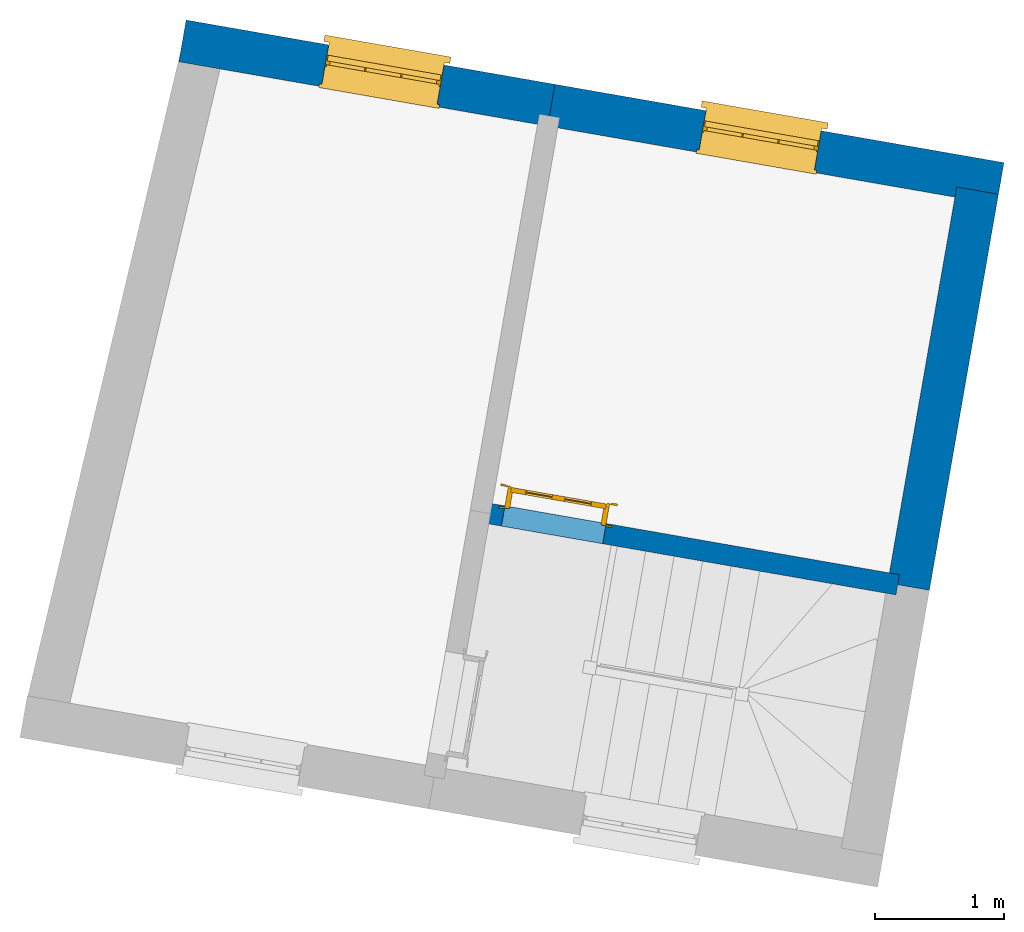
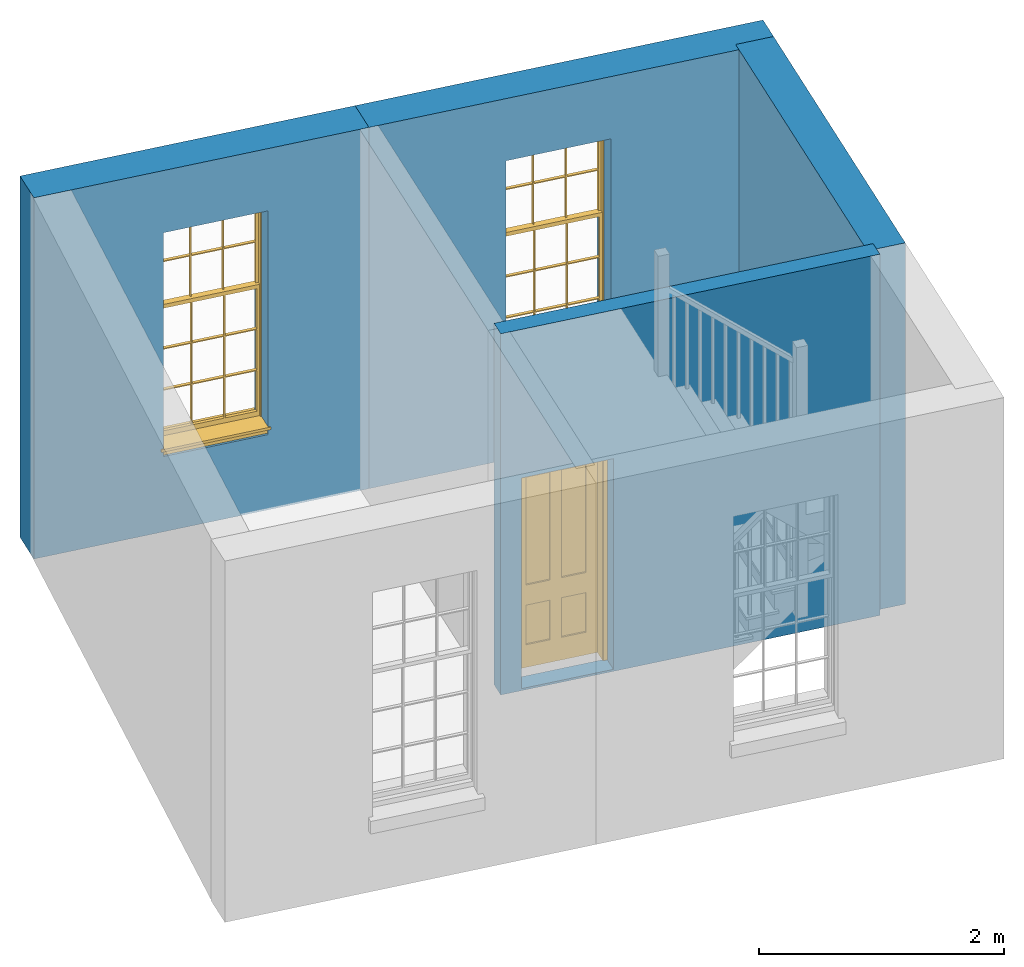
# One storey, part 2 of 2: 4 walls, 2 windows, 1 door, 3 openings.
"""IFC4 building model written with IfcOpenShell, lengths in metres."""

from ifc_helpers import new_model, si_unit, frame, origin, origin_with_axes, place, context, subcontext, project, spatial, polyline, outline, extrude, faceted_brep, source, transform, mapped, material, layer, layer_set, layer_usage, type_object, type_shapes, element, fill, save


model = new_model("IFC4")

# Units and contexts
model_context = context("Model", 3, world=origin_with_axes())
body_context = subcontext(model_context, "Body", "Model", "MODEL_VIEW")
ifc_project = project(units=[si_unit("PLANEANGLEUNIT", "RADIAN"), si_unit("MASSUNIT", "GRAM", prefix="KILO"), si_unit("FORCEUNIT", "NEWTON", prefix="KILO"), si_unit("LENGTHUNIT", "METRE"), si_unit("AREAUNIT", "SQUARE_METRE"), si_unit("VOLUMEUNIT", "CUBIC_METRE")], contexts=[model_context, model_context])

# Sites, building, storey
site_1_placement = place(None, origin_with_axes())
site_1 = spatial("IfcSite", under=ifc_project, at=site_1_placement, Name="Tamar")
site_2_placement = place(site_1_placement, origin_with_axes())
site_2 = spatial("IfcSite", under=site_1, at=site_2_placement, Name="Site plot-26", CompositionType="ELEMENT")
building_placement = place(None, origin_with_axes())
building = spatial("IfcBuilding", under=site_2, at=building_placement, Name="Building plot-26", CompositionType="ELEMENT")
storey_placement = place(None, frame((0.0, 0.0, 29.15), z_axis=(0.0, 0.0, 1.0), x_axis=(1.0, 0.0, 0.0)))
storey = spatial("IfcBuildingStorey", under=building, at=storey_placement, Name="plot-26 1", CompositionType="ELEMENT", Elevation=29.15)

# Wall, opening, window
ifc_material_1 = material(Name="Masonry")
ifc_layer_1 = layer(ifc_material_1, 0.33, ventilated=False)
ifc_layer_set_1 = layer_set([ifc_layer_1], Name="exterior_0.08_0.25")
ifc_layer_usage_1 = layer_usage(ifc_layer_set_1, "AXIS2", "POSITIVE", -0.25)
wall_type_1 = type_object("IfcWallType", Name="exterior_0.08_0.25", PredefinedType="SOLIDWALL", material=ifc_layer_set_1)
wall_1_placement = place(storey_placement, frame((291.598239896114, 275.42544442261, 0.0), z_axis=(0.0, 0.0, 1.0), x_axis=(-0.98513382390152, 0.171788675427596, 0.0)))
wall_1 = element("IfcWall", 1, at=wall_1_placement, inside=storey, type_object=wall_type_1, material=ifc_layer_usage_1, Name="exterior", context=body_context, shape_type="SweptSolid", body=[
    extrude(outline(polyline([(-0.25000000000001, 0.0800000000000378), (-0.250000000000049, -0.250000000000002), (3.29617851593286, -0.250000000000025), (3.2961785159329, 0.0800000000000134), (-0.25000000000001, 0.0800000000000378)])), origin_with_axes(), (0.0, 0.0, 1.0), 3.6),
])
opening_1_placement = place(wall_1_placement, frame((1.19308925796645, 0.0, 0.75)))
opening_1 = element("IfcOpeningElement", 2, at=opening_1_placement, cuts=wall_1, Name="My Opening", ObjectType="Opening", context=body_context, shape_type="SweptSolid", body=[
    extrude(outline(polyline([(0.0, -0.27000000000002), (0.91000000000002, -0.269999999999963), (0.910000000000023, 1.09999999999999), (2.44249065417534e-15, 1.09999999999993), (0.0, -0.27000000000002)])), origin_with_axes(), (0.0, 0.0, 1.0), 2.23),
])
window_type = type_object("IfcWindowType", Name="sash_big_taller", PartitioningType="DOUBLE_PANEL_HORIZONTAL", PredefinedType="NOTDEFINED")
shared_shape_1 = source(origin(), body_context, "Body", "Brep", [
    faceted_brep([(0.033125, 0.145, 1.385209), (0.01, 0.145, 1.385209), (0.033125, 0.145, 1.786042), (0.876875, 0.145, 1.385209), (0.876875, 0.145, 1.786042), (0.9, 0.145, 1.385209), (0.876875, 0.145, 1.796042), (0.876875, 0.145, 2.196875), (0.9, 0.145, 2.22), (0.033125, 0.145, 2.196875), (0.033125, 0.145, 1.796042), (0.01, 0.145, 2.22), (0.876875, 0.115, 1.786042), (0.876875, 0.115, 1.385209), (0.9, 0.115, 1.347084), (0.033125, 0.115, 2.196875), (0.01, 0.115, 2.22), (0.033125, 0.115, 1.796042), (0.01, 0.115, 1.347084), (0.033125, 0.115, 1.385209), (0.033125, 0.115, 1.786042), (0.876875, 0.115, 2.196875), (0.876875, 0.115, 1.796042), (0.9, 0.115, 2.22), (0.033125, 0.145, 1.347084), (0.01, 0.145, 1.347084), (0.033125, 0.145, 0.94625), (0.876875, 0.145, 1.347084), (0.876875, 0.145, 0.94625), (0.9, 0.145, 1.347084), (0.876875, 0.145, 0.52625), (0.876875, 0.145, 0.125417), (0.9, 0.145, 0.077167), (0.033125, 0.145, 0.125417), (0.033125, 0.145, 0.52625), (0.01, 0.145, 0.077167), (-0.0425, 0.0, 0.01), (-0.0425, -0.05, 0.001667), (0.0, 0.0, 0.01), (0.9525, 0.0, 0.01), (0.91, 0.0, 0.01), (0.9525, -0.05, 0.001667), (-0.02, 0.33, 0.077167), (0.0, 0.33, 0.077167), (-0.02, 0.36, 0.077167), (0.0, 0.19, 0.077167), (0.01, 0.19, 0.077167), (0.91, 0.19, 0.077167), (0.91, 0.33, 0.077167), (0.9, 0.19, 0.077167), (0.93, 0.33, 0.077167), (0.93, 0.36, 0.077167), (0.01, 0.175, 1.385209), (0.9, 0.175, 1.385209), (0.876875, 0.175, 0.125417), (0.876875, 0.175, 0.52625), (0.9, 0.175, 0.077167), (0.876875, 0.175, 0.94625), (0.876875, 0.175, 1.347084), (0.033125, 0.175, 0.125417), (0.01, 0.175, 0.077167), (0.033125, 0.175, 0.52625), (0.033125, 0.175, 1.347084), (0.033125, 0.175, 0.94625), (-0.02, 0.33, 0.052167), (-0.02, 0.36, 0.052167), (0.93, 0.36, 0.052167), (0.93, 0.33, 0.052167), (0.91, 0.33, 0.052167), (0.0, 0.33, 0.052167), (0.91, 0.1, 0.026667), (0.0, 0.1, 0.026667), (-0.0425, -0.05, -0.123333), (0.9525, -0.05, -0.123333), (-0.0425, 0.0, -0.123333), (0.9525, 0.0, -0.123333), (0.01, 0.19, 2.22), (0.9, 0.19, 2.22), (0.0, 0.19, 2.23), (0.91, 0.19, 2.23), (0.01, 0.1, 0.077167), (0.9, 0.1, 0.077167), (0.592292, 0.145, 0.125417), (0.592292, 0.175, 0.125417), (0.317708, 0.175, 0.125417), (0.317708, 0.145, 0.125417), (0.592292, 0.145, 0.53625), (0.317708, 0.145, 0.53625), (0.317708, 0.145, 0.52625), (0.592292, 0.145, 0.52625), (0.592292, 0.175, 0.53625), (0.317708, 0.175, 0.53625), (0.592292, 0.115, 1.796042), (0.592292, 0.145, 1.796042), (0.317708, 0.145, 1.796042), (0.317708, 0.115, 1.796042), (0.317708, 0.115, 1.786042), (0.592292, 0.115, 1.786042), (0.317708, 0.145, 1.786042), (0.592292, 0.145, 1.786042), (0.602292, 0.115, 1.786042), (0.592292, 0.115, 1.385209), (0.602292, 0.115, 1.385209), (0.602292, 0.145, 1.385209), (0.592292, 0.145, 1.385209), (0.602292, 0.145, 1.786042), (0.876875, 0.145, 0.53625), (0.876875, 0.175, 0.53625), (0.602292, 0.175, 0.53625), (0.602292, 0.145, 0.53625), (0.317708, 0.175, 0.52625), (0.307708, 0.175, 0.125417), (0.307708, 0.175, 0.52625), (0.602292, 0.175, 0.52625), (0.602292, 0.175, 0.125417), (0.592292, 0.175, 0.52625), (0.307708, 0.175, 0.53625), (0.033125, 0.175, 0.53625), (0.317708, 0.175, 1.347084), (0.317708, 0.175, 0.94625), (0.307708, 0.175, 0.94625), (0.307708, 0.175, 1.347084), (0.602292, 0.175, 1.347084), (0.602292, 0.175, 0.94625), (0.592292, 0.175, 0.94625), (0.592292, 0.175, 1.347084), (0.307708, 0.145, 0.52625), (0.307708, 0.145, 0.125417), (0.307708, 0.145, 0.53625), (0.033125, 0.145, 0.53625), (0.307708, 0.145, 1.347084), (0.307708, 0.145, 0.94625), (0.592292, 0.145, 1.347084), (0.592292, 0.145, 0.94625), (0.317708, 0.145, 0.94625), (0.317708, 0.145, 1.347084), (0.602292, 0.145, 0.94625), (0.602292, 0.145, 1.347084), (0.602292, 0.145, 0.52625), (0.602292, 0.145, 0.125417), (0.307708, 0.115, 1.796042), (0.307708, 0.115, 1.786042), (0.307708, 0.115, 1.385209), (0.317708, 0.115, 1.385209), (0.317708, 0.115, 2.196875), (0.307708, 0.115, 2.196875), (0.602292, 0.115, 2.196875), (0.592292, 0.115, 2.196875), (0.602292, 0.115, 1.796042), (0.602292, 0.145, 1.796042), (0.307708, 0.145, 1.796042), (0.307708, 0.145, 2.196875), (0.317708, 0.145, 2.196875), (0.592292, 0.145, 2.196875), (0.602292, 0.145, 2.196875), (0.307708, 0.145, 1.786042), (0.317708, 0.145, 1.385209), (0.307708, 0.145, 1.385209), (0.876875, 0.175, 0.93625), (0.033125, 0.175, 0.93625), (0.033125, 0.145, 0.93625), (0.876875, 0.145, 0.93625), (0.91, 0.1, 2.23), (0.9, 0.1, 2.22), (0.01, 0.1, 2.22), (0.0, 0.1, 2.23), (0.91, 0.0, 0.0), (0.0, 0.0, 0.0), (0.91, 0.33, 0.0), (0.0, 0.33, 0.0), (0.317708, 0.145, 0.93625), (0.592292, 0.145, 0.93625), (0.317708, 0.175, 0.93625), (0.307708, 0.175, 0.93625), (0.602292, 0.175, 0.93625), (0.592292, 0.175, 0.93625), (0.307708, 0.145, 0.93625), (0.602292, 0.145, 0.93625)], [[[0, 1, 2]], [[3, 4, 5]], [[6, 7, 8]], [[9, 10, 11]], [[12, 13, 14]], [[15, 16, 17]], [[18, 19, 20]], [[21, 22, 23]], [[24, 25, 26]], [[27, 28, 29]], [[30, 31, 32]], [[33, 34, 35]], [[14, 27, 29]], [[25, 24, 18]], [[36, 37, 38]], [[39, 40, 41]], [[42, 43, 44]], [[45, 46, 43]], [[47, 48, 49]], [[50, 51, 48]], [[1, 0, 52]], [[5, 53, 3]], [[54, 55, 56]], [[57, 58, 53]], [[59, 60, 61]], [[62, 63, 52]], [[48, 43, 46, 49]], [[51, 44, 43, 48]], [[64, 42, 44, 65]], [[65, 44, 51, 66]], [[66, 51, 50, 67]], [[65, 66, 68, 69]], [[60, 56, 49, 46]], [[70, 71, 38, 40]], [[37, 41, 40, 38]], [[37, 72, 73, 41]], [[74, 75, 73, 72]], [[8, 11, 76, 77]], [[76, 78, 79, 77]], [[32, 35, 80, 81]], [[81, 80, 71, 70]], [[82, 83, 84, 85]], [[86, 87, 88, 89]], [[86, 90, 91, 87]], [[92, 93, 94, 95]], [[92, 95, 96, 97]], [[96, 98, 99, 97]], [[100, 97, 101, 102]], [[103, 104, 99, 105]], [[97, 99, 104, 101]], [[102, 103, 105, 100]], [[106, 107, 108, 109]], [[110, 84, 111, 112]], [[113, 114, 83, 115]], [[116, 112, 61, 117]], [[90, 115, 110, 91]], [[118, 119, 120, 121]], [[122, 123, 124, 125]], [[113, 108, 107, 55]], [[126, 112, 111, 127]], [[34, 61, 112, 126]], [[89, 115, 83, 82]], [[88, 110, 115, 89]], [[85, 84, 110, 88]], [[128, 116, 117, 129]], [[130, 121, 120, 131]], [[132, 125, 124, 133]], [[134, 119, 118, 135]], [[136, 123, 122, 137]], [[138, 113, 55, 30]], [[139, 114, 113, 138]], [[138, 30, 106, 109]], [[88, 126, 127, 85]], [[138, 89, 82, 139]], [[137, 132, 133, 136]], [[128, 129, 34, 126]], [[135, 130, 131, 134]], [[140, 17, 20, 141]], [[96, 141, 142, 143]], [[144, 145, 140, 95]], [[146, 147, 92, 148]], [[100, 12, 22, 148]], [[149, 6, 4, 105]], [[94, 150, 151, 152]], [[149, 93, 153, 154]], [[99, 98, 94, 93]], [[155, 2, 10, 150]], [[156, 157, 155, 98]], [[141, 155, 157, 142]], [[20, 2, 155, 141]], [[143, 156, 98, 96]], [[140, 150, 10, 17]], [[145, 151, 150, 140]], [[147, 153, 93, 92]], [[95, 94, 152, 144]], [[22, 6, 149, 148]], [[148, 149, 154, 146]], [[100, 105, 4, 12]], [[109, 86, 89, 138]], [[108, 113, 115, 90]], [[91, 110, 112, 116]], [[87, 128, 126, 88]], [[97, 100, 148, 92]], [[141, 96, 95, 140]], [[98, 155, 150, 94]], [[105, 99, 93, 149]], [[143, 101, 104, 156]], [[135, 118, 125, 132]], [[144, 152, 153, 147]], [[127, 111, 59, 33]], [[15, 9, 151, 145]], [[146, 154, 7, 21]], [[31, 54, 114, 139]], [[36, 74, 72, 37]], [[39, 41, 73, 75]], [[18, 14, 101, 143]], [[23, 16, 144, 147]], [[83, 56, 60, 84]], [[52, 53, 125, 118]], [[53, 52, 156, 104]], [[11, 8, 153, 152]], [[14, 18, 135, 132]], [[2, 1, 11, 10]], [[8, 5, 4, 6]], [[57, 53, 56, 158]], [[60, 52, 63, 159]], [[26, 25, 35, 160]], [[32, 29, 28, 161]], [[14, 23, 22, 12]], [[18, 20, 17, 16]], [[19, 0, 2, 20]], [[17, 10, 9, 15]], [[12, 4, 3, 13]], [[21, 7, 6, 22]], [[27, 58, 57, 28]], [[30, 55, 54, 31]], [[33, 59, 61, 34]], [[26, 63, 62, 24]], [[5, 8, 77, 53]], [[76, 11, 1, 52]], [[46, 45, 78, 76]], [[49, 77, 79, 47]], [[70, 162, 163, 81]], [[71, 80, 164, 165]], [[19, 142, 157, 0]], [[102, 13, 3, 103]], [[121, 130, 24, 62]], [[29, 32, 81, 14]], [[80, 35, 25, 18]], [[60, 46, 76, 52]], [[77, 49, 56, 53]], [[23, 14, 81, 163]], [[16, 164, 80, 18]], [[35, 85, 127]], [[127, 33, 35]], [[139, 82, 32]], [[32, 31, 139]], [[32, 82, 85, 35]], [[102, 101, 14]], [[14, 13, 102]], [[18, 143, 142]], [[142, 19, 18]], [[146, 21, 23]], [[23, 147, 146]], [[16, 15, 145]], [[145, 144, 16]], [[11, 152, 151]], [[151, 9, 11]], [[154, 153, 8]], [[8, 7, 154]], [[23, 163, 164, 16]], [[162, 165, 164, 163]], [[52, 118, 121]], [[121, 62, 52]], [[125, 53, 122]], [[58, 122, 53]], [[27, 137, 122, 58]], [[56, 83, 114]], [[114, 54, 56]], [[111, 84, 60]], [[60, 59, 111]], [[137, 27, 14]], [[14, 132, 137]], [[130, 135, 18]], [[18, 24, 130]], [[157, 156, 52]], [[52, 0, 157]], [[103, 3, 53]], [[53, 104, 103]], [[79, 78, 165, 162]], [[78, 45, 71, 165]], [[162, 70, 47, 79]], [[166, 75, 74, 167]], [[68, 66, 67]], [[48, 68, 67, 50]], [[69, 64, 65]], [[42, 64, 69, 43]], [[69, 68, 168, 169]], [[70, 68, 48, 47]], [[166, 168, 68, 70]], [[43, 69, 71, 45]], [[69, 169, 167, 71]], [[168, 166, 167, 169]], [[38, 167, 74, 36]], [[71, 167, 38]], [[39, 75, 166, 40]], [[40, 166, 70]], [[133, 134, 170, 171]], [[133, 124, 119, 134]], [[28, 57, 123, 136]], [[172, 91, 116, 173]], [[174, 108, 90, 175]], [[120, 173, 159, 63]], [[124, 175, 172, 119]], [[174, 123, 57, 158]], [[176, 173, 116, 128]], [[160, 159, 173, 176]], [[171, 175, 90, 86]], [[170, 172, 175, 171]], [[87, 91, 172, 170]], [[131, 120, 63, 26]], [[177, 174, 158, 161]], [[109, 108, 174, 177]], [[177, 161, 28, 136]], [[170, 176, 128, 87]], [[177, 171, 86, 109]], [[131, 26, 160, 176]], [[136, 133, 171, 177]], [[123, 174, 175, 124]], [[119, 172, 173, 120]], [[134, 131, 176, 170]], [[129, 117, 159, 160]], [[161, 158, 107, 106]], [[35, 34, 129]], [[35, 129, 160]], [[32, 106, 30]], [[32, 161, 106]], [[56, 55, 107]], [[56, 107, 158]], [[60, 117, 61]], [[60, 159, 117]]]),
])
type_shapes(window_type, [shared_shape_1])
window_1_placement = place(storey_placement, frame((290.469270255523, 275.896389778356, 0.75), z_axis=(0.0, 0.0, 1.0), x_axis=(-0.896471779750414, 0.15632769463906, 0.0)))
window_1 = element("IfcWindow", 3, at=window_1_placement, inside=storey, type_object=window_type, Name="bedroom outside window", OverallHeight=2.23, OverallWidth=0.91, context=body_context, shape_type="MappedRepresentation", body=[
    mapped(shared_shape_1, transform((0.0, 0.0, 0.0), scale=1.0)),
])
fill(opening_1, window_1)

wall_2_placement = place(storey_placement, frame((288.351062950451, 275.991690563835, 0.0), z_axis=(0.0, 0.0, 1.0), x_axis=(-0.985133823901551, 0.171788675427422, 0.0)))
wall_2 = element("IfcWall", 4, at=wall_2_placement, inside=storey, type_object=wall_type_1, material=ifc_layer_usage_1, Name="exterior", context=body_context, shape_type="SweptSolid", body=[
    extrude(outline(polyline([(2.98121663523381e-14, 0.0800000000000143), (-6.75972741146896e-14, -0.250000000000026), (2.91299210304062, -0.250000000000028), (2.91299210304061, 0.0799999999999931), (2.98121663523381e-14, 0.0800000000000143)])), origin_with_axes(), (0.0, 0.0, 1.0), 3.6),
])
opening_2_placement = place(wall_2_placement, frame((0.876496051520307, 0.0, 0.75)))
opening_2 = element("IfcOpeningElement", 5, at=opening_2_placement, cuts=wall_2, Name="My Opening", ObjectType="Opening", context=body_context, shape_type="SweptSolid", body=[
    extrude(outline(polyline([(0.0, -0.269999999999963), (0.909999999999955, -0.270000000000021), (0.909999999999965, 1.09999999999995), (1.01030295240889e-14, 1.10000000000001), (0.0, -0.269999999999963)])), origin_with_axes(), (0.0, 0.0, 1.0), 2.23),
])
window_2_placement = place(storey_placement, frame((287.533979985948, 276.408248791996, 0.75), z_axis=(0.0, 0.0, 1.0), x_axis=(-0.896471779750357, 0.156327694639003, 0.0)))
window_2 = element("IfcWindow", 6, at=window_2_placement, inside=storey, type_object=window_type, Name="bedroom outside window", OverallHeight=2.23, OverallWidth=0.91, context=body_context, shape_type="MappedRepresentation", body=[
    mapped(shared_shape_1, transform((0.0, 0.0, 0.0), scale=1.0)),
])
fill(opening_2, window_2)

# Wall
ifc_material_2 = material(Name="Masonry")
ifc_layer_2 = layer(ifc_material_2, 0.33, ventilated=False)
ifc_layer_set_2 = layer_set([ifc_layer_2], Name="party_0.08_0.25")
ifc_layer_usage_2 = layer_usage(ifc_layer_set_2, "AXIS2", "POSITIVE", -0.25)
wall_type_2 = type_object("IfcWallType", Name="party_0.08_0.25", PredefinedType="SOLIDWALL", material=ifc_layer_set_2)
wall_3_placement = place(storey_placement, frame((291.060939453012, 272.344258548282, 0.0), z_axis=(0.0, 0.0, 1.0), x_axis=(0.171788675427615, 0.985133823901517, 0.0)))
element("IfcWall", 7, at=wall_3_placement, inside=storey, type_object=wall_type_2, material=ifc_layer_usage_2, Name="party", context=body_context, shape_type="SweptSolid", body=[
    extrude(outline(polyline([(-4.18815956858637e-14, 0.0800000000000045), (9.34405756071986e-14, -0.250000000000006), (3.12768255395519, -0.250000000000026), (3.12768255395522, 0.0800000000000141), (-4.18815956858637e-14, 0.0800000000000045)])), origin_with_axes(), (0.0, 0.0, 1.0), 3.6),
])

# Wall, opening, door
ifc_material_3 = material(Name="Masonry")
ifc_layer_3 = layer(ifc_material_3, 0.16, ventilated=False)
ifc_layer_set_3 = layer_set([ifc_layer_3], Name="interior_0.08_0.08")
ifc_layer_usage_3 = layer_usage(ifc_layer_set_3, "AXIS2", "POSITIVE", -0.08)
wall_type_3 = type_object("IfcWallType", Name="interior_0.08_0.08", PredefinedType="SOLIDWALL", material=ifc_layer_set_3)
wall_4_placement = place(storey_placement, frame((287.813762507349, 272.910504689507, 0.0), z_axis=(0.0, 0.0, 1.0), x_axis=(0.985133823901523, -0.171788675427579, 0.0)))
wall_4 = element("IfcWall", 8, at=wall_4_placement, inside=storey, type_object=wall_type_3, material=ifc_layer_usage_3, Name="interior", context=body_context, shape_type="SweptSolid", body=[
    extrude(outline(polyline([(1.7057924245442e-14, 0.0800000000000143), (-1.70677214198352e-14, -0.0800000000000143), (3.29617851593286, -0.0800000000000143), (3.29617851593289, 0.0800000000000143), (1.7057924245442e-14, 0.0800000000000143)])), origin_with_axes(), (0.0, 0.0, 1.0), 3.6),
])
opening_3_placement = place(wall_4_placement, frame((0.179999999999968, 0.0, 0.0199999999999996)))
opening_3 = element("IfcOpeningElement", 9, at=opening_3_placement, cuts=wall_4, Name="My Opening", ObjectType="Opening", context=body_context, shape_type="SweptSolid", body=[
    extrude(outline(polyline([(0.0, -0.0999999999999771), (0.800000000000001, -0.0999999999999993), (0.800000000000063, 1.10000000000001), (6.11177775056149e-14, 1.10000000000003), (0.0, -0.0999999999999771)])), origin_with_axes(), (0.0, 0.0, 1.0), 2.1),
])
door_type = type_object("IfcDoorType", Name="door_inside", OperationType="SINGLE_SWING_LEFT", PredefinedType="NOTDEFINED")
shared_shape_2 = source(origin(), body_context, "Body", "Brep", [
    faceted_brep([(0.773, 0.33, 1.895), (0.66, 0.33, 1.895), (0.66, 0.33, 2.073), (0.773, 0.33, 2.073), (0.773, 0.33, 0.82), (0.66, 0.33, 0.82), (0.45, 0.33, 1.895), (0.45, 0.33, 2.073), (0.773, 0.33, 0.62), (0.66, 0.33, 0.62), (0.66, 0.315, 0.82), (0.66, 0.315, 1.895), (0.45, 0.315, 1.895), (0.35, 0.33, 1.895), (0.35, 0.33, 2.073), (0.773, 0.33, 0.225), (0.66, 0.33, 0.225), (0.45, 0.33, 0.62), (0.45, 0.33, 0.82), (0.45, 0.315, 0.82), (0.35, 0.33, 0.82), (0.14, 0.33, 2.073), (0.14, 0.33, 1.895), (0.773, 0.33, 0.0), (0.66, 0.33, 0.0), (0.66, 0.315, 0.225), (0.66, 0.315, 0.62), (0.45, 0.315, 0.62), (0.35, 0.33, 0.62), (0.35, 0.315, 0.82), (0.35, 0.315, 1.895), (0.14, 0.315, 1.895), (0.027, 0.33, 2.073), (0.027, 0.33, 1.895), (0.773, 0.292, 0.0), (0.66, 0.292, 0.0), (0.45, 0.33, 0.0), (0.45, 0.33, 0.225), (0.45, 0.315, 0.225), (0.35, 0.33, 0.225), (0.14, 0.33, 0.82), (0.14, 0.33, 0.62), (0.14, 0.315, 0.82), (0.027, 0.33, 0.82), (0.773, 0.292, 0.225), (0.66, 0.292, 0.225), (0.45, 0.292, 0.0), (0.35, 0.33, 0.0), (0.35, 0.315, 0.225), (0.35, 0.315, 0.62), (0.14, 0.315, 0.62), (0.027, 0.33, 0.62), (0.773, 0.292, 0.62), (0.66, 0.292, 0.62), (0.45, 0.292, 0.225), (0.35, 0.292, 0.0), (0.14, 0.33, 0.225), (0.14, 0.33, 0.0), (0.14, 0.315, 0.225), (0.027, 0.33, 0.225), (0.773, 0.292, 0.82), (0.66, 0.292, 0.82), (0.66, 0.307, 0.62), (0.66, 0.307, 0.225), (0.45, 0.307, 0.225), (0.35, 0.292, 0.225), (0.14, 0.292, 0.0), (0.027, 0.33, 0.0), (0.773, 0.292, 1.895), (0.66, 0.292, 1.895), (0.45, 0.292, 0.62), (0.45, 0.292, 0.82), (0.45, 0.307, 0.62), (0.35, 0.292, 0.62), (0.14, 0.292, 0.225), (0.027, 0.292, 0.0), (0.773, 0.292, 2.073), (0.66, 0.292, 2.073), (0.66, 0.307, 1.895), (0.66, 0.307, 0.82), (0.45, 0.307, 0.82), (0.35, 0.292, 0.82), (0.35, 0.307, 0.62), (0.35, 0.307, 0.225), (0.14, 0.307, 0.225), (0.027, 0.292, 0.225), (0.45, 0.292, 1.895), (0.45, 0.292, 2.073), (0.45, 0.307, 1.895), (0.35, 0.292, 1.895), (0.14, 0.292, 0.82), (0.14, 0.292, 0.62), (0.14, 0.307, 0.62), (0.027, 0.292, 0.62), (0.35, 0.292, 2.073), (0.35, 0.307, 1.895), (0.35, 0.307, 0.82), (0.14, 0.307, 0.82), (0.027, 0.292, 0.82), (0.14, 0.292, 2.073), (0.14, 0.292, 1.895), (0.14, 0.307, 1.895), (0.027, 0.292, 1.895), (0.027, 0.292, 2.073), (0.02, 0.335, 0.0), (0.005, 0.34, 0.0), (0.005, 0.34, 2.095), (0.02, 0.335, 2.08), (0.02, 0.33, 0.0), (0.0, 0.335, 0.0), (0.0, 0.335, 2.1), (0.795, 0.34, 2.095), (0.78, 0.335, 2.08), (0.02, 0.33, 2.08), (0.0, 0.33, 0.0), (-0.032, 0.345, 0.0), (-0.032, 0.345, 2.132), (0.8, 0.335, 2.1), (0.795, 0.34, 0.0), (0.78, 0.335, 0.0), (0.78, 0.33, 2.08), (0.04, 0.29, 0.0), (0.025, 0.29, 0.0), (0.025, 0.29, 2.075), (0.04, 0.29, 2.06), (-0.04, 0.34, 0.0), (-0.04, 0.34, 2.14), (0.832, 0.345, 2.132), (0.8, 0.335, 0.0), (0.78, 0.33, 0.0), (0.8, 0.33, 0.0), (0.86, 0.33, 0.0), (0.86, 0.33, 2.16), (0.8, 0.33, 2.1), (-0.06, 0.33, 2.16), (0.0, 0.33, 2.1), (-0.06, 0.33, 0.0), (-0.04, 0.345, 0.0), (-0.04, 0.345, 2.14), (0.84, 0.34, 2.14), (0.832, 0.345, 0.0), (0.84, 0.34, 0.0), (0.86, 0.345, 0.0), (0.86, 0.345, 2.16), (-0.06, 0.345, 2.16), (-0.06, 0.345, 0.0), (0.84, 0.345, 0.0), (0.84, 0.345, 2.14), (-0.025, 0.155, 0.0), (-0.025, 0.16, 0.0), (-0.025, 0.16, 2.125), (-0.025, 0.155, 2.125), (-0.017, 0.155, 0.0), (-0.017, 0.155, 2.117), (0.825, 0.16, 2.125), (0.825, 0.155, 2.125), (0.825, 0.155, 0.0), (0.845, 0.155, 0.0), (-0.045, 0.155, 2.145), (-0.045, 0.155, 0.0), (0.845, 0.155, 2.145), (0.015, 0.165, 0.0), (0.015, 0.165, 2.085), (0.817, 0.155, 2.117), (0.825, 0.16, 0.0), (0.845, 0.17, 0.0), (0.845, 0.17, 2.145), (-0.045, 0.17, 2.145), (-0.045, 0.17, 0.0), (0.02, 0.16, 0.0), (0.02, 0.16, 2.08), (0.785, 0.165, 2.085), (0.817, 0.155, 0.0), (0.8, 0.17, 0.0), (0.8, 0.17, 2.1), (0.0, 0.17, 2.1), (0.0, 0.17, 0.0), (0.035, 0.165, 0.0), (0.035, 0.165, 2.065), (0.78, 0.16, 2.08), (0.785, 0.165, 0.0), (0.775, 0.29, 2.075), (0.76, 0.29, 2.06), (0.035, 0.17, 2.065), (0.035, 0.17, 0.0), (0.765, 0.165, 2.065), (0.78, 0.16, 0.0), (0.765, 0.17, 0.0), (0.765, 0.17, 2.065), (0.765, 0.165, 0.0), (0.04, 0.17, 2.06), (0.04, 0.17, 0.0), (0.76, 0.17, 2.06), (0.76, 0.17, 0.0), (0.76, 0.29, 0.0), (0.775, 0.29, 0.0), (0.025, 0.33, 0.0), (0.025, 0.33, 2.075), (0.775, 0.33, 0.0), (0.775, 0.33, 2.075)], [[[0, 1, 2, 3]], [[1, 0, 4, 5]], [[1, 6, 7, 2]], [[8, 9, 5, 4]], [[1, 5, 10, 11]], [[6, 1, 11, 12]], [[6, 13, 14, 7]], [[15, 16, 9, 8]], [[9, 17, 18, 5]], [[5, 18, 19, 10]], [[10, 19, 12, 11]], [[18, 6, 12, 19]], [[18, 20, 13, 6]], [[21, 14, 13, 22]], [[23, 24, 16, 15]], [[9, 16, 25, 26]], [[17, 9, 26, 27]], [[17, 28, 20, 18]], [[13, 20, 29, 30]], [[22, 13, 30, 31]], [[32, 21, 22, 33]], [[34, 35, 24, 23]], [[24, 36, 37, 16]], [[16, 37, 38, 25]], [[25, 38, 27, 26]], [[37, 17, 27, 38]], [[37, 39, 28, 17]], [[40, 20, 28, 41]], [[20, 40, 42, 29]], [[31, 30, 29, 42]], [[40, 22, 31, 42]], [[33, 22, 40, 43]], [[35, 34, 44, 45]], [[35, 46, 36, 24]], [[36, 47, 39, 37]], [[28, 39, 48, 49]], [[41, 28, 49, 50]], [[43, 40, 41, 51]], [[45, 44, 52, 53]], [[46, 35, 45, 54]], [[46, 55, 47, 36]], [[56, 39, 47, 57]], [[39, 56, 58, 48]], [[50, 49, 48, 58]], [[56, 41, 50, 58]], [[51, 41, 56, 59]], [[53, 52, 60, 61]], [[45, 53, 62, 63]], [[54, 45, 63, 64]], [[55, 46, 54, 65]], [[55, 66, 57, 47]], [[59, 56, 57, 67]], [[61, 60, 68, 69]], [[70, 53, 61, 71]], [[53, 70, 72, 62]], [[72, 64, 63, 62]], [[70, 54, 64, 72]], [[65, 54, 70, 73]], [[65, 74, 66, 55]], [[67, 57, 66, 75]], [[69, 68, 76, 77]], [[61, 69, 78, 79]], [[71, 61, 79, 80]], [[73, 70, 71, 81]], [[65, 73, 82, 83]], [[74, 65, 83, 84]], [[74, 85, 75, 66]], [[86, 69, 77, 87]], [[69, 86, 88, 78]], [[88, 80, 79, 78]], [[86, 71, 80, 88]], [[81, 71, 86, 89]], [[73, 81, 90, 91]], [[73, 91, 92, 82]], [[83, 82, 92, 84]], [[91, 74, 84, 92]], [[91, 93, 85, 74]], [[89, 86, 87, 94]], [[81, 89, 95, 96]], [[90, 81, 96, 97]], [[90, 98, 93, 91]], [[94, 99, 100, 89]], [[89, 100, 101, 95]], [[101, 97, 96, 95]], [[100, 90, 97, 101]], [[100, 102, 98, 90]], [[99, 103, 102, 100]], [[32, 103, 99, 21]], [[102, 103, 32, 33]], [[98, 102, 33, 43]], [[21, 99, 94, 14]], [[94, 87, 7, 14]], [[7, 87, 77, 2]], [[76, 3, 2, 77]], [[43, 51, 93, 98]], [[51, 59, 85, 93]], [[67, 75, 85, 59]], [[34, 23, 15, 44]], [[44, 15, 8, 52]], [[52, 8, 4, 60]], [[0, 68, 60, 4]], [[0, 3, 76, 68]], [[104, 105, 106, 107]], [[104, 108, 109, 105]], [[105, 109, 110, 106]], [[107, 106, 111, 112]], [[107, 113, 108, 104]], [[114, 109, 108]], [[109, 115, 116, 110]], [[106, 110, 117, 111]], [[112, 111, 118, 119]], [[113, 107, 112, 120]], [[121, 122, 123, 124]], [[115, 109, 114, 125]], [[115, 125, 126, 116]], [[110, 116, 127, 117]], [[111, 117, 128, 118]], [[118, 128, 129, 119]], [[120, 112, 119, 129]], [[130, 129, 128]], [[130, 131, 132, 133]], [[133, 132, 134, 135]], [[135, 134, 136, 114]], [[136, 125, 114]], [[125, 137, 138, 126]], [[116, 126, 139, 127]], [[117, 127, 140, 128]], [[141, 130, 128, 140]], [[131, 130, 141]], [[131, 142, 143, 132]], [[132, 143, 144, 134]], [[134, 144, 145, 136]], [[137, 125, 136, 145]], [[143, 142, 146]], [[143, 146, 147]], [[137, 145, 144]], [[143, 147, 138]], [[138, 137, 144]], [[143, 138, 144]], [[126, 138, 147, 139]], [[127, 139, 141, 140]], [[142, 131, 141, 146]], [[139, 147, 146, 141]], [[148, 149, 150, 151]], [[149, 152, 153, 150]], [[151, 150, 154, 155]], [[155, 156, 157]], [[158, 159, 148]], [[158, 148, 151]], [[155, 157, 160]], [[158, 151, 155]], [[155, 160, 158]], [[152, 161, 162, 153]], [[150, 153, 163, 154]], [[155, 154, 164, 156]], [[156, 164, 165, 157]], [[157, 165, 166, 160]], [[160, 166, 167, 158]], [[158, 167, 168, 159]], [[161, 169, 170, 162]], [[153, 162, 171, 163]], [[154, 163, 172, 164]], [[165, 164, 173]], [[165, 173, 174, 166]], [[166, 174, 175, 167]], [[167, 175, 176, 168]], [[169, 177, 178, 170]], [[162, 170, 179, 171]], [[163, 171, 180, 172]], [[172, 180, 173, 164]], [[124, 123, 181, 182]], [[183, 178, 177, 184]], [[170, 178, 185, 179]], [[171, 179, 186, 180]], [[187, 173, 180]], [[185, 188, 187, 189]], [[188, 185, 178, 183]], [[179, 185, 189, 186]], [[189, 187, 180, 186]], [[190, 183, 184, 191]], [[192, 188, 183, 190]], [[191, 184, 122, 121]], [[124, 190, 191, 121]], [[193, 187, 188, 192]], [[182, 192, 190, 124]], [[184, 176, 122]], [[194, 195, 187, 193]], [[192, 182, 194, 193]], [[161, 176, 184]], [[114, 108, 122, 176]], [[173, 187, 195]], [[152, 149, 176, 161]], [[169, 161, 184, 177]], [[196, 122, 108]], [[176, 175, 135, 114]], [[173, 195, 129, 130]], [[176, 149, 168]], [[123, 122, 196, 197]], [[196, 108, 113, 197]], [[175, 174, 133, 135]], [[198, 129, 195]], [[133, 174, 173, 130]], [[159, 168, 149, 148]], [[181, 123, 197, 199]], [[197, 113, 120, 199]], [[199, 120, 129, 198]], [[195, 181, 199, 198]], [[195, 194, 182, 181]]]),
])
type_shapes(door_type, [shared_shape_2])
door_placement = place(storey_placement, frame((287.973907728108, 272.78106934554, 0.0199999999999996), z_axis=(0.0, 0.0, 1.0), x_axis=(0.788107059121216, -0.137430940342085, 0.0)))
door = element("IfcDoor", 10, at=door_placement, inside=storey, type_object=door_type, Name="bedroom inside door", OverallHeight=2.1, OverallWidth=0.8, context=body_context, shape_type="MappedRepresentation", body=[
    mapped(shared_shape_2, transform((0.0, 0.0, 0.0), scale=1.0)),
])
fill(opening_3, door)

save(model, "model.ifc")
